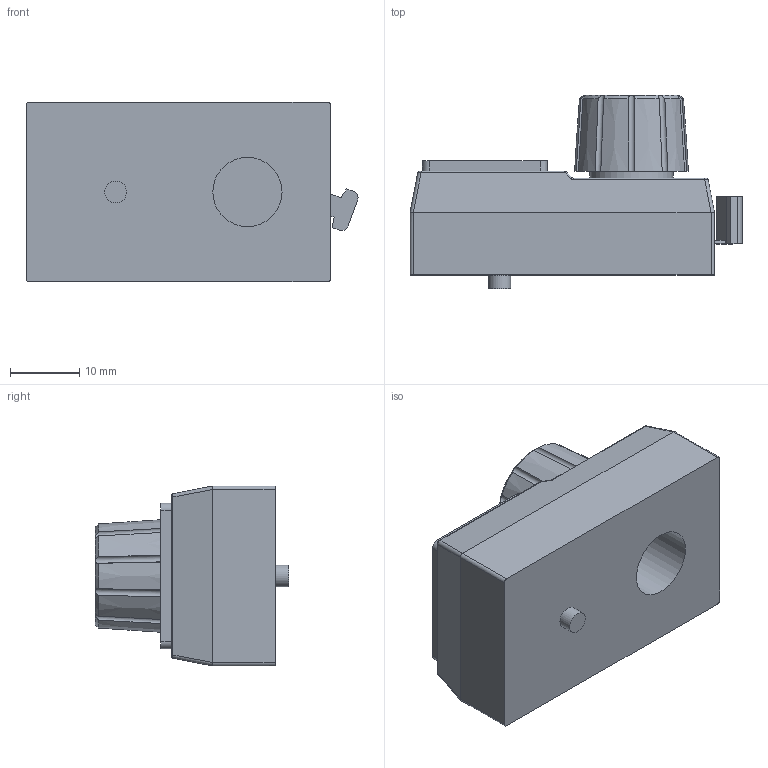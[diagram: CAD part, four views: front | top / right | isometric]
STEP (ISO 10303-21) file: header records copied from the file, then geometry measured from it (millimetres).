
FILE_DESCRIPTION (( 'STEP AP214' ), '1' );
FILE_NAME ('DCD.STEP', '2019-05-09T11:52:56', ( '' ), ( '' ), 'SwSTEP 2.0', 'SolidWorks 2017', '' );
FILE_SCHEMA (( 'AUTOMOTIVE_DESIGN' ));
Length unit declared in the file: millimetre
Products named in the file (1): DCD
Bounding box: 47.97 x 28 x 26 mm (x, y, z)
Volume: 17951.7 mm3; surface area: 5643.6 mm2
Topology: 1 solids, 1 shells, 162 faces, 412 edges, 266 vertices
Faces by surface type: plane 78, cylinder 42, bspline 29, cone 11, sphere 2
Full cylindrical faces by diameter (mm): 3.175 x1, 10 x2, 12 x1
Entity records: 6682 total; most frequent: CARTESIAN_POINT 2689, ORIENTED_EDGE 808, DIRECTION 633, EDGE_CURVE 404, VERTEX_POINT 265, VECTOR 223, LINE 223, AXIS2_PLACEMENT_3D 205
